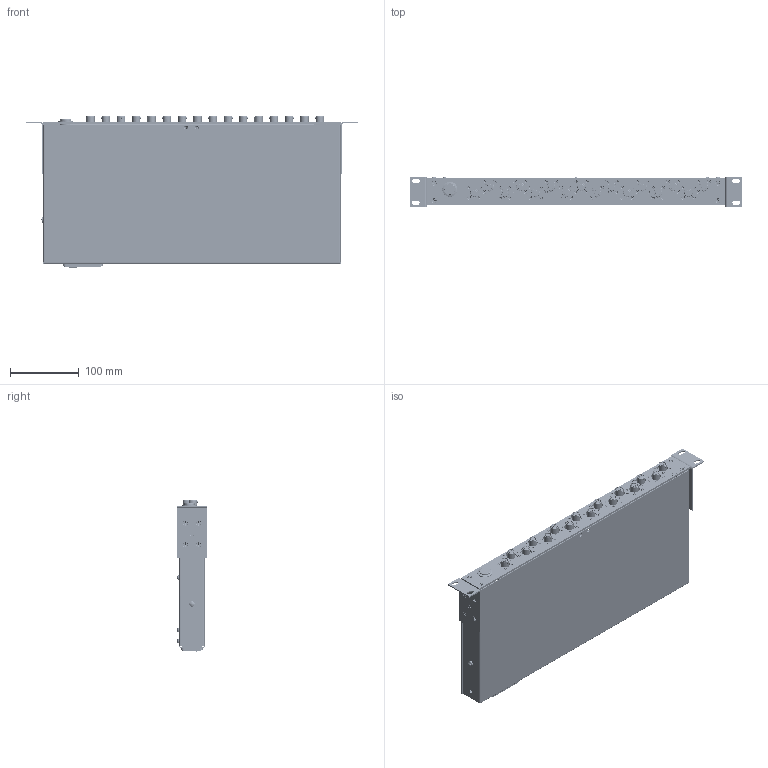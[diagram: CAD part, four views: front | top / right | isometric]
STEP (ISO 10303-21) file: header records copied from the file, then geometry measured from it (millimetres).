
FILE_DESCRIPTION (( 'STEP AP214' ), '1' );
FILE_NAME ('PDM5016 Rackmount.STEP', '2024-12-03T20:09:31', ( '' ), ( '' ), 'SwSTEP 2.0', 'SolidWorks 2024', '' );
FILE_SCHEMA (( 'AUTOMOTIVE_DESIGN' ));
Length unit declared in the file: inch
Products named in the file (26): #8 Pan x .375_#8 Pan x .375; flat head screw_1_ai_#6 Flat x .375; 20313_20313-1; 0933-6PANX250SS_0993-6PANX.250SS; 0920_0920-4X.1875; 20306_20306-1; AM-104_AM-104; RIV NUT_6-32 RIV NUT; FH-632-XX_FH-632-6; CO-875; #4 Flat x .500_#4 Flat x .500; 20304_20304-1; 20308_20308-1; 0920_0920-8X.375; AM-196_AM-196; CO-1150_CO-1150; 20309-1_20309-1; FIT 221_FIT 221; 20307_20309-1; PDM5016 Rackmount; 0921_0921-632.250SS; flush stud_pmi_PEM FHS-440-20 ---N; #4 Flat x .375_#4 Flat x .375; S-213_S-213; 156143_156143-1
Assembly tree (143 placements, depth 3):
  AM-104_AM-104
  FIT 221_FIT 221
  PDM5016 Rackmount
    20309-1_20309-1
      20307_20309-1
    156143_156143-1  x16
      CO-875
    #4 Flat x .375_#4 Flat x .375  x62
    flat head screw_1_ai_#6 Flat x .375  x14
    0933-6PANX250SS_0993-6PANX.250SS  x9
    #8 Pan x .375_#8 Pan x .375
    0920_0920-8X.375
    0921_0921-632.250SS  x2
    #4 Flat x .500_#4 Flat x .500  x2
    0920_0920-4X.1875  x2
    20306_20306-1
      20306_20306-1
      FH-632-XX_FH-632-6  x4
      flush stud_pmi_PEM FHS-440-20 ---N  x4
      RIV NUT_6-32 RIV NUT  x14
    S-213_S-213
    20308_20308-1
      AM-196_AM-196
    CO-1150_CO-1150
    20313_20313-1  x2
    20304_20304-1
Bounding box: 482.6 x 44.45 x 220.26 mm (x, y, z)
Volume: 411793.6 mm3; surface area: 552629.4 mm2
Topology: 142 solids, 142 shells, 8859 faces, 22661 edges, 14543 vertices
Faces by surface type: plane 5683, cylinder 2225, cone 521, bspline 237, torus 169, sphere 24
Entity records: 163598 total; most frequent: CARTESIAN_POINT 38439, ORIENTED_EDGE 26444, DIRECTION 24443, EDGE_CURVE 13222, LINE 10467, VECTOR 10467, VERTEX_POINT 8624, AXIS2_PLACEMENT_3D 6988
